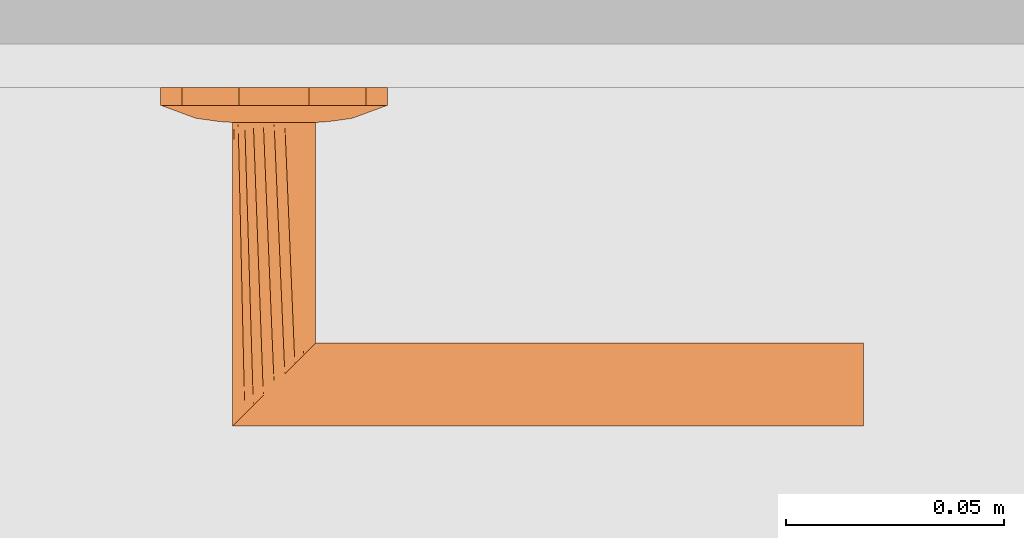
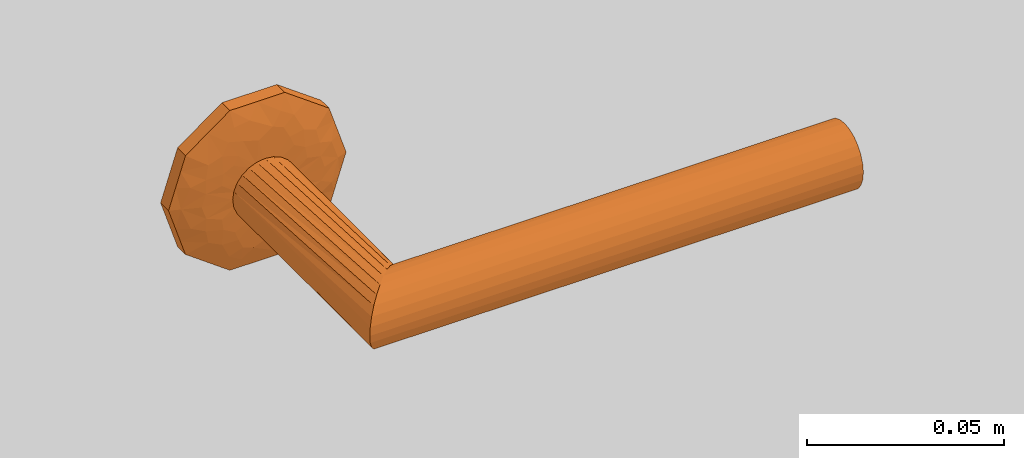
# One storey, part 37 of 55: 1 proxy.
"""IFC2X3 building model written with IfcOpenShell, lengths in millimetres."""

from ifc_helpers import new_model, entity, si_unit, converted_unit, direction, frame, origin, place, context, subcontext, project, spatial, faceted_brep, source, transform, mapped, material, type_object, type_shapes, element, save


model = new_model("IFC2X3")

# Units and contexts
model_context = context("Model", 3, precision=0.01, world=origin(), true_north=direction((6.123233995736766e-17, 1.0)))
plan_context = context("Plan", 3, precision=0.01, world=origin(), true_north=direction((6.123233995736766e-17, 1.0)))
body_context = subcontext(model_context, "Body", "Model", "MODEL_VIEW")
ifc_project = project(units=[si_unit("LENGTHUNIT", "METRE", prefix="MILLI"), converted_unit("PLANEANGLEUNIT", "DEGREE", entity("IfcPlaneAngleMeasure", 0.017453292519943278), si_unit("PLANEANGLEUNIT", "RADIAN"), dimensions=[0, 0, 0, 0, 0, 0, 0]), si_unit("AREAUNIT", "SQUARE_METRE")], contexts=[model_context, plan_context])

# Site, building, storey, space
site_placement = place(None, origin())
site = spatial("IfcSite", under=ifc_project, at=site_placement, Name="Default", CompositionType="ELEMENT")
building_placement = place(site_placement, origin())
building = spatial("IfcBuilding", under=site, at=building_placement, CompositionType="ELEMENT")
storey_placement = place(building_placement, origin())
storey = spatial("IfcBuildingStorey", under=building, at=storey_placement, Name="1K", CompositionType="ELEMENT", Elevation=0.0)
space_placement = place(storey_placement, origin())
space = spatial("IfcSpace", under=storey, at=space_placement, Name="1-0.5", CompositionType="ELEMENT", InteriorOrExteriorSpace="INTERNAL")

# Proxy
ifc_material = material(Name="<Unnamed>")
building_element_proxy_type = type_object("IfcBuildingElementProxyType", Name="Door-handle_Lever_ABLOY_INOXI_3-19ss-002_RT:Default", PredefinedType="NOTDEFINED", material=ifc_material)
shared_shape = source(origin(), body_context, "Body", "Brep", [
    faceted_brep([(0.0, 0.0, 0.0), (8.034441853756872, 24.72746942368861, 0.0), (14.534441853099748, 20.00494299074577, 0.0), (21.034441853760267, 15.282416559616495, 0.0), (23.51722092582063, 7.641208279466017, 0.0), (26.0, 0.0, 0.0), (23.517220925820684, -7.641208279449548, 0.0), (0.0, 24.72746942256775, 0.0), (-8.034441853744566, 24.727469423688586, 0.0), (-14.534441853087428, 20.00494299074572, 0.0), (-21.03444185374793, 15.282416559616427, 0.0), (-23.517220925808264, 7.641208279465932, 0.0), (-26.0, 0.0, 0.0), (21.034441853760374, -15.282416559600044, 0.0), (14.534441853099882, -20.004942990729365, 0.0), (8.034441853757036, -24.72746942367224, 0.0), (0.0, -24.72746942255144, 0.0), (-23.517220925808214, -7.641208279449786, 0.0), (-21.034441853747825, -15.282416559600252, 0.0), (-14.53444185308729, -20.004942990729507, 0.0), (-8.0344418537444, -24.72746942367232, 0.0), (0.0, 0.0, 8.0), (9.500000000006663, 0.0, 8.0), (8.312500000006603, 2.056810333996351, 8.0), (7.125000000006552, 4.113620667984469, 8.0), (5.937500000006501, 6.170431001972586, 8.0), (4.7500000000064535, 8.227241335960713, 8.0), (2.375000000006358, 8.2272413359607, 8.0), (0.0, 8.227241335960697, 8.0), (-2.3749999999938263, 8.227241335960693, 8.0), (-4.749999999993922, 8.227241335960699, 8.0), (-5.937499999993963, 6.1704310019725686, 8.0), (-7.124999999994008, 4.1136206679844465, 8.0), (-8.312499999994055, 2.0568103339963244, 8.0), (-9.499999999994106, 0.0, 8.0), (-8.31249999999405, -2.0568103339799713, 8.0), (8.312500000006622, -2.0568103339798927, 8.0), (7.125000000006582, -4.113620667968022, 8.0), (5.937500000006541, -6.170431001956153, 8.0), (4.750000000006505, -8.227241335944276, 8.0), (-7.124999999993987, -4.113620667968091, 8.0), (-5.9374999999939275, -6.17043100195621, 8.0), (-4.74999999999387, -8.227241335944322, 8.0), (-2.374999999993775, -8.227241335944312, 8.0), (0.0, -8.227241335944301, 8.0), (2.3750000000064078, -8.227241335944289, 8.0), (-20.6430713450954, 6.292822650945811, 5.929480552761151), (-16.663919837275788, 7.932665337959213, 6.877259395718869), (-22.48876527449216, 10.806469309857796, 4.030771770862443), (-16.764060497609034, 3.8202578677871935, 7.1747985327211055), (-12.504579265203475, 5.179566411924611, 7.774932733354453), (-11.979136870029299, 13.678312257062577, 6.945778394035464), (-11.963426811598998, 8.62529041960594, 7.618343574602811), (-9.07172672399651, 10.31160661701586, 7.7520782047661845), (8.03444185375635, 24.727469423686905, 4.030771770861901), (0.0, 24.72746942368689, 4.030771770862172), (5.758554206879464, 20.96753300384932, 5.871476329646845), (20.643071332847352, 6.292822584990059, 5.929480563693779), (22.488765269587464, 10.806469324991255, 4.03077177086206), (16.66391982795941, 7.9326653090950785, 6.877259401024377), (9.49943163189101, 18.6436835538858, 6.154325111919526), (14.534441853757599, 20.004942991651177, 4.030771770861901), (-14.534441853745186, 20.00494299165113, 4.030771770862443), (-21.034441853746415, 15.282416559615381, 4.030771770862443), (-15.783149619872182, 11.991003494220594, 6.50080018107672), (-23.943088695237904, 6.330522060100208, 4.030771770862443), (-23.012042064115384, 0.0, 5.135401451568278), (12.50457924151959, 5.179566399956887, 7.774932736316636), (11.963426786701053, 8.625290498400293, 7.618343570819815), (16.76406041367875, 3.820257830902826, 7.17479855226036), (15.783149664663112, 11.991003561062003, 6.50080015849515), (23.01204200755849, 0.0, 5.135401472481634), (17.9853516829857, 0.0, 6.993737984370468), (8.661516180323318, 10.478936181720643, 7.768126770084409), (-3.3573143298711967, 21.197247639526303, 5.971427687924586), (-8.03444185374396, 24.727469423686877, 4.030771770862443), (-7.711266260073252, 12.76034452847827, 7.594456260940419), (-5.97325794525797, 16.43013906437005, 7.110979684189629), (-9.94191586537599, 17.061976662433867, 6.522757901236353), (11.979136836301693, 13.678312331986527, 6.945778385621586), (5.953298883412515, 16.50608604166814, 7.096344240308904), (7.511307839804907, 13.358932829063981, 7.529187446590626), (-1.5654593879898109, 15.307443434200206, 7.519134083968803), (-7.784980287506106, 20.476295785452, 5.812837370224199), (2.8135289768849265, 17.763922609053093, 6.993737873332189), (-17.985351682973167, 0.0, 6.993737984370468), (-26.0, 0.0, 4.030771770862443), (-23.51722092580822, 7.641208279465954, 4.030771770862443), (26.0, 0.0, 4.030771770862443), (24.308823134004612, 5.204907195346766, 4.030771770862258), (23.943088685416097, 6.330522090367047, 4.030771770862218), (21.03444185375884, 15.282416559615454, 4.030771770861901), (22.617646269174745, 10.40981439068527, 4.030771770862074), (20.6430713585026, -6.292822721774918, 5.929480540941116), (16.663919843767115, -7.932665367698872, 6.877259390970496), (22.48876527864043, -10.8064692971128, 4.030771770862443), (16.764060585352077, -3.8202579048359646, 7.174798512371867), (12.504579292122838, -5.17956641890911, 7.774932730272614), (11.979136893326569, -13.678312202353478, 6.9457784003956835), (11.963426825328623, -8.62529034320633, 7.618343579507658), (9.071726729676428, -10.311606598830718, 7.752078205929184), (-8.03444185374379, -24.727469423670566, 4.030771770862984), (0.0, -24.727469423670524, 4.030771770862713), (-5.758554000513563, -20.96753314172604, 5.8714763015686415), (-20.643071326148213, -6.292822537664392, 5.929480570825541), (-22.488765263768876, -10.80646934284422, 4.030771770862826), (-16.66391981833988, -7.932665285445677, 6.877259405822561), (-9.499431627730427, -18.643683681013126, 6.154325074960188), (-14.534441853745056, -20.004942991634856, 4.030771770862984), (14.53444185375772, -20.00494299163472, 4.030771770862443), (21.034441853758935, -15.282416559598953, 4.030771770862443), (15.783149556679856, -11.991003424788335, 6.5008002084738), (23.943088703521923, -6.330522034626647, 4.030771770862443), (-12.504579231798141, -5.17956638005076, 7.77493273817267), (-11.963426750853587, -8.625290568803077, 7.618343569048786), (-16.764060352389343, -3.8202577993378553, 7.174798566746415), (-15.783149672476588, -11.991003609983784, 6.500800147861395), (-8.661516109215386, -10.478936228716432, 7.768126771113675), (3.3573144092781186, -21.197247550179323, 5.971427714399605), (8.034441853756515, -24.727469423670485, 4.030771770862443), (7.711266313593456, -12.760344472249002, 7.5944562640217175), (5.9732581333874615, -16.430139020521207, 7.110979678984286), (9.941915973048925, -17.06197655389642, 6.522757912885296), (-11.979136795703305, -13.678312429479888, 6.945778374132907), (-5.953298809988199, -16.506086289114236, 7.096344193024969), (-7.511307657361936, -13.358932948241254, 7.5291874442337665), (1.5654596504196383, -15.3074431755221, 7.519134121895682), (7.784980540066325, -20.476295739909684, 5.812837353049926), (-2.81352881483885, -17.76392263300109, 6.993737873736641), (23.517220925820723, -7.64120827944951, 4.030771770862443), (-24.308823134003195, -5.20490719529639, 4.030771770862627), (-23.943088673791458, -6.330522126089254, 4.030771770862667), (-21.034441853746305, -15.282416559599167, 4.030771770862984), (-22.617646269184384, -10.409814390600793, 4.0307717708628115)], [[[0, 1, 2]], [[0, 2, 3]], [[0, 3, 4]], [[0, 4, 5]], [[0, 5, 6]], [[0, 7, 1]], [[0, 8, 7]], [[0, 9, 8]], [[0, 10, 9]], [[0, 11, 10]], [[0, 12, 11]], [[0, 6, 13]], [[0, 13, 14]], [[0, 14, 15]], [[0, 15, 16]], [[0, 17, 12]], [[0, 18, 17]], [[0, 19, 18]], [[0, 20, 19]], [[0, 16, 20]], [[21, 22, 23]], [[21, 23, 24]], [[21, 24, 25]], [[21, 25, 26]], [[21, 26, 27]], [[21, 27, 28]], [[21, 28, 29]], [[21, 29, 30]], [[21, 30, 31]], [[21, 31, 32]], [[21, 32, 33]], [[21, 33, 34]], [[21, 34, 35]], [[21, 36, 22]], [[21, 37, 36]], [[21, 38, 37]], [[21, 39, 38]], [[21, 35, 40]], [[21, 40, 41]], [[21, 41, 42]], [[21, 42, 43]], [[21, 43, 44]], [[21, 44, 45]], [[21, 45, 39]], [[46, 47, 48]], [[49, 50, 47]], [[33, 32, 50]], [[51, 52, 53]], [[32, 52, 50]], [[49, 47, 46]], [[54, 55, 56]], [[57, 58, 59]], [[60, 61, 54]], [[62, 63, 64]], [[46, 65, 66]], [[67, 59, 68]], [[23, 69, 67]], [[70, 68, 59]], [[23, 22, 69]], [[52, 51, 64]], [[71, 69, 72]], [[73, 25, 68]], [[74, 55, 75]], [[76, 77, 78]], [[70, 61, 79]], [[71, 57, 69]], [[60, 80, 81]], [[51, 76, 78]], [[77, 29, 82]], [[26, 81, 27]], [[74, 83, 77]], [[77, 82, 74]], [[74, 84, 55]], [[34, 49, 85]], [[23, 67, 24]], [[28, 84, 82]], [[74, 82, 84]], [[29, 76, 30]], [[29, 28, 82]], [[49, 34, 33]], [[47, 50, 52]], [[47, 52, 64]], [[50, 49, 33]], [[53, 76, 51]], [[52, 32, 31]], [[49, 66, 85]], [[86, 66, 65]], [[24, 67, 68]], [[83, 78, 77]], [[49, 46, 66]], [[48, 64, 63]], [[46, 48, 87, 65]], [[48, 47, 64]], [[59, 67, 69]], [[26, 73, 81]], [[79, 68, 70]], [[25, 24, 68]], [[71, 88, 89, 90]], [[22, 72, 69]], [[59, 69, 57]], [[79, 61, 60]], [[51, 62, 64]], [[70, 58, 91]], [[90, 57, 71]], [[58, 70, 59]], [[57, 90, 92]], [[79, 60, 81]], [[61, 70, 91]], [[56, 80, 60]], [[79, 81, 73]], [[80, 84, 27]], [[79, 73, 68]], [[27, 84, 28]], [[25, 73, 26]], [[77, 76, 29]], [[31, 30, 53]], [[78, 62, 51]], [[75, 62, 83]], [[78, 83, 62]], [[75, 83, 74]], [[76, 53, 30]], [[31, 53, 52]], [[81, 80, 27]], [[84, 80, 56]], [[84, 56, 55]], [[54, 56, 60]], [[93, 94, 95]], [[96, 97, 94]], [[36, 37, 97]], [[98, 99, 100]], [[37, 99, 97]], [[96, 94, 93]], [[101, 102, 103]], [[104, 105, 106]], [[107, 108, 101]], [[109, 110, 111]], [[93, 112, 71]], [[113, 106, 114]], [[35, 115, 113]], [[116, 114, 106]], [[35, 34, 115]], [[99, 98, 111]], [[66, 115, 85]], [[117, 41, 114]], [[118, 102, 119]], [[120, 121, 122]], [[116, 108, 123]], [[66, 104, 115]], [[107, 124, 125]], [[120, 45, 121]], [[121, 45, 126]], [[42, 125, 43]], [[118, 127, 121]], [[121, 126, 118]], [[118, 128, 102]], [[22, 96, 72]], [[35, 113, 40]], [[44, 128, 126]], [[118, 126, 128]], [[45, 120, 39]], [[45, 44, 126]], [[96, 22, 36]], [[94, 97, 99]], [[94, 99, 111]], [[97, 96, 36]], [[100, 120, 98]], [[99, 37, 38]], [[96, 71, 72]], [[88, 71, 112]], [[40, 113, 114]], [[127, 122, 121]], [[96, 93, 71]], [[95, 111, 110]], [[93, 95, 129, 112]], [[95, 94, 111]], [[106, 113, 115]], [[42, 117, 125]], [[123, 114, 116]], [[41, 40, 114]], [[66, 86, 130, 131]], [[34, 85, 115]], [[106, 115, 104]], [[123, 108, 107]], [[98, 109, 111]], [[116, 105, 132]], [[131, 104, 66]], [[105, 116, 106]], [[104, 131, 133]], [[123, 107, 125]], [[108, 116, 132]], [[103, 124, 107]], [[123, 125, 117]], [[124, 128, 43]], [[123, 117, 114]], [[43, 128, 44]], [[41, 117, 42]], [[38, 39, 100]], [[98, 120, 122]], [[122, 109, 98]], [[119, 109, 127]], [[122, 127, 109]], [[119, 127, 118]], [[120, 100, 39]], [[38, 100, 99]], [[125, 124, 43]], [[128, 124, 103]], [[128, 103, 102]], [[101, 103, 107]], [[9, 10, 63, 62, 75, 8]], [[11, 12, 86, 65, 87, 48, 63, 10]], [[4, 3, 92, 90, 89, 88, 5]], [[3, 91, 58]], [[55, 54, 1, 7, 8, 75]], [[3, 2, 1, 54, 61, 91]], [[13, 6, 5, 88, 112, 129, 95, 110]], [[119, 15, 14, 13, 110, 109]], [[17, 18, 133, 131, 130, 86, 12]], [[18, 132, 105]], [[102, 101, 20, 16, 15, 119]], [[18, 19, 20, 101, 108, 132]], [[57, 92, 58]], [[104, 133, 105]], [[3, 58, 92]], [[18, 105, 133]]]),
    faceted_brep([(0.0, 9.499999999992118, 8.0), (2.4587809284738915, 9.176295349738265, 8.0), (4.7499999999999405, 8.22724133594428, 8.0), (6.717514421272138, 6.7175144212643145, 8.0), (8.227241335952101, 4.749999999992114, 8.0), (9.17629534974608, 2.458780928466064, 8.0), (9.499999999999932, 0.0, 8.0), (9.17629534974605, -2.458780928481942, 8.0), (8.22724133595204, -4.75000000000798, 8.0), (6.717514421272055, -6.717514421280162, 8.0), (4.7499999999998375, -8.227241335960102, 8.0), (2.4587809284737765, -9.176295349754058, 8.0), (0.0, -9.500000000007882, 8.0), (-2.4587809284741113, -9.176295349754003, 8.0), (-4.750000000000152, -8.227241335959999, 8.0), (-6.717514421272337, -6.717514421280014, 8.0), (-8.227241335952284, -4.750000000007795, 8.0), (-9.176295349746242, -2.458780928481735, 8.0), (-9.500000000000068, 0.0, 8.0), (-9.176295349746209, 2.4587809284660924, 8.0), (-8.227241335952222, 4.74999999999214, 8.0), (-6.717514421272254, 6.717514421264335, 8.0), (-4.7500000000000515, 8.227241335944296, 8.0), (-2.4587809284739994, 9.176295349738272, 8.0), (-6.717514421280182, -6.7175144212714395, 61.282485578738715), (-8.227241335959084, -4.7499999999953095, 59.772758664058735), (-9.176295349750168, -2.458780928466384, 58.82370465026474), (-2.4587809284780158, -9.176295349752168, 65.54121907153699), (-4.750000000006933, -8.227241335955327, 63.25000000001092), (-9.500000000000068, 0.0, 58.50000000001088), (0.0, -9.50000000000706, 68.0), (2.4587809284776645, -9.17629534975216, 70.45878092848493), (4.750000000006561, -8.227241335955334, 72.75000000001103), (6.717514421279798, -6.7175144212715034, 74.71751442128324), (9.17629534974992, -2.458780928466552, 77.17629534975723), (8.22724133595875, -4.749999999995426, 76.22724133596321), (9.499999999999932, 0.0, 77.50000000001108), (9.176295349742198, 2.4587809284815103, 77.1762953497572), (8.227241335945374, 4.750000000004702, 76.22724133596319), (4.749999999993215, 8.227241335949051, 72.75000000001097), (6.7175144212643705, 6.717514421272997, 74.7175144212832), (2.4587809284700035, 9.17629534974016, 70.45878092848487), (-2.4587809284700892, 9.176295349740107, 65.54121907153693), (0.0, 9.49999999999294, 68.0), (-6.717514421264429, 6.717514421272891, 61.282485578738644), (-4.749999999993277, 8.227241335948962, 63.250000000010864), (-9.176295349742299, 2.458780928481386, 58.8237046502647), (-8.227241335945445, 4.750000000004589, 59.77275866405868), (-135.0, 9.500000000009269, 68.0), (-135.0, 9.176295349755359, 65.54121907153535), (-135.0, 8.227241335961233, 63.25000000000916), (-135.0, 6.7175144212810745, 61.28248557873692), (-135.0, 4.750000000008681, 59.772758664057), (-135.0, 2.458780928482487, 58.82370465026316), (-135.0, 0.0, 58.50000000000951), (-135.0, -2.458780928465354, 58.823704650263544), (-135.0, -4.749999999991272, 59.772758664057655), (-135.0, -6.717514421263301, 61.28248557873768), (-135.0, -8.227241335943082, 63.250000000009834), (-135.0, -9.17629534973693, 65.54121907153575), (-135.0, -9.499999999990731, 68.0), (-135.0, -9.17629534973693, 70.45878092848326), (-135.0, -8.227241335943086, 72.75000000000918), (-135.0, -6.717514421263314, 74.71751442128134), (-135.0, -4.749999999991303, 76.22724133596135), (-135.0, -2.4587809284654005, 77.17629534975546), (-135.0, 0.0, 77.5000000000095), (-135.0, 2.4587809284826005, 77.17629534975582), (-135.0, 4.750000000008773, 76.22724133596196), (-135.0, 6.717514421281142, 74.71751442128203), (-135.0, 8.227241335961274, 72.75000000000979), (-135.0, 9.176295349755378, 70.4587809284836)], [[[0, 1, 2, 3, 4, 5, 6, 7, 8, 9, 10, 11, 12, 13, 14, 15, 16, 17, 18, 19, 20, 21, 22, 23]], [[15, 24, 25, 16]], [[16, 25, 26, 17]], [[27, 28, 12]], [[12, 28, 13]], [[13, 28, 24]], [[18, 17, 26, 29]], [[24, 15, 14]], [[14, 13, 24]], [[11, 30, 27]], [[31, 9, 32]], [[32, 8, 33]], [[34, 35, 7]], [[7, 35, 33]], [[36, 34, 7, 6]], [[30, 11, 10]], [[11, 27, 12]], [[33, 8, 7]], [[8, 32, 9]], [[31, 10, 9]], [[10, 31, 30]], [[37, 36, 6, 5]], [[37, 5, 38]], [[39, 40, 4]], [[5, 40, 38]], [[41, 39, 3]], [[5, 4, 40]], [[42, 43, 1]], [[2, 1, 43]], [[2, 41, 3]], [[39, 4, 3]], [[2, 43, 41]], [[23, 44, 45]], [[0, 45, 42]], [[19, 18, 29, 46]], [[20, 19, 46, 47]], [[21, 20, 47, 44]], [[23, 22, 44]], [[45, 0, 23]], [[44, 22, 21]], [[1, 0, 42]], [[48, 49, 50, 51, 52, 53, 54, 55, 56, 57, 58, 59, 60, 61, 62, 63, 64, 65, 66, 67, 68, 69, 70, 71]], [[26, 25, 56, 55]], [[29, 26, 55, 54]], [[28, 27, 59, 58]], [[24, 28, 58, 57]], [[25, 24, 57, 56]], [[27, 30, 60, 59]], [[32, 33, 63, 62]], [[31, 32, 62, 61]], [[34, 36, 66, 65]], [[35, 34, 65, 64]], [[33, 35, 64, 63]], [[61, 60, 30, 31]], [[38, 68, 67, 37]], [[37, 67, 66, 36]], [[41, 71, 70, 39]], [[39, 70, 69, 40]], [[40, 69, 68, 38]], [[48, 71, 41, 43]], [[44, 51, 50, 45]], [[45, 50, 49, 42]], [[29, 54, 53, 46]], [[46, 53, 52, 47]], [[47, 52, 51, 44]], [[42, 49, 48, 43]]]),
])
type_shapes(building_element_proxy_type, [shared_shape])
proxy_placement = place(space_placement, frame((9764.995060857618, 4089.999959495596, 1000.0), z_axis=(0.0, -1.0, 0.0), x_axis=(-1.0, 0.0, 0.0)))
element("IfcBuildingElementProxy", 1, at=proxy_placement, inside=space, type_object=building_element_proxy_type, material=ifc_material, Name="Door-handle_Lever_ABLOY_INOXI_3-19ss-002_RT:Default", ObjectType="Door-handle_Lever_ABLOY_INOXI_3-19ss-002_RT:Default", context=body_context, shape_type="MappedRepresentation", body=[
    mapped(shared_shape, transform((0.0, 0.0, 0.0), scale=1.0)),
])

save(model, "model.ifc")
